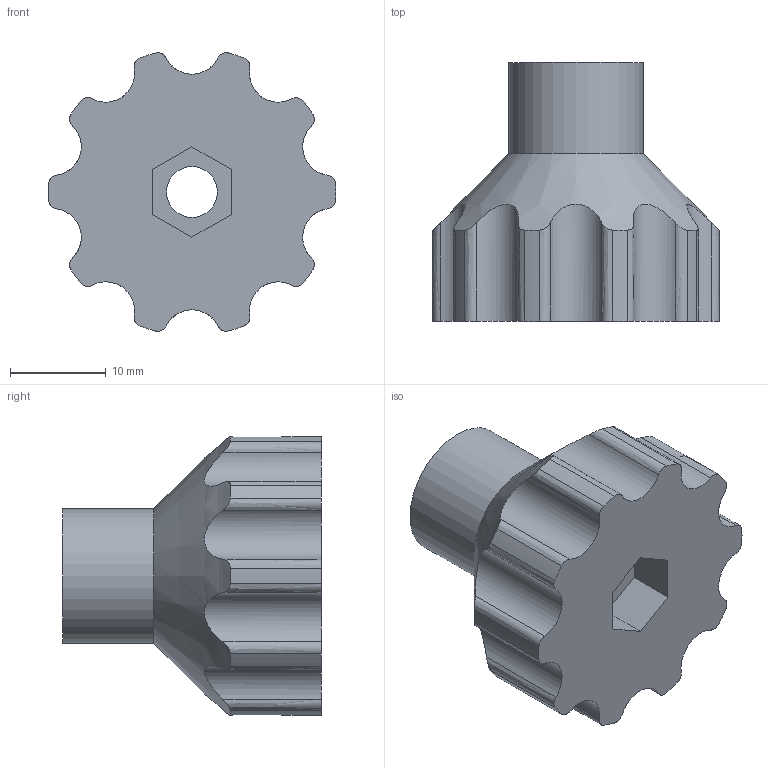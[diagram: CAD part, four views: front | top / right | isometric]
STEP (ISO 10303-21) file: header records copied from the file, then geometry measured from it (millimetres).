
FILE_DESCRIPTION(('FreeCAD Model'),'2;1');
FILE_NAME('Open CASCADE Shape Model','2023-11-11T09:58:55',(''),(''), 'Open CASCADE STEP processor 7.6','FreeCAD','Unknown');
FILE_SCHEMA(('AUTOMOTIVE_DESIGN { 1 0 10303 214 1 1 1 1 }'));
Length unit declared in the file: millimetre
Products named in the file (1): knob
Bounding box: 30 x 27 x 29.06 mm (x, y, z)
Volume: 9299.5 mm3; surface area: 3426.2 mm2
Topology: 1 solids, 1 shells, 52 faces, 155 edges, 106 vertices
Faces by surface type: cylinder 22, bspline 20, plane 9, cone 1
Full cylindrical faces by diameter (mm): 5.3 x1, 14 x1
Entity records: 8754 total; most frequent: CARTESIAN_POINT 6180, DIRECTION 315, ORIENTED_EDGE 310, PCURVE 310, DEFINITIONAL_REPRESENTATION 310, B_SPLINE_CURVE_WITH_KNOTS 242, EDGE_CURVE 155, LINE 155
